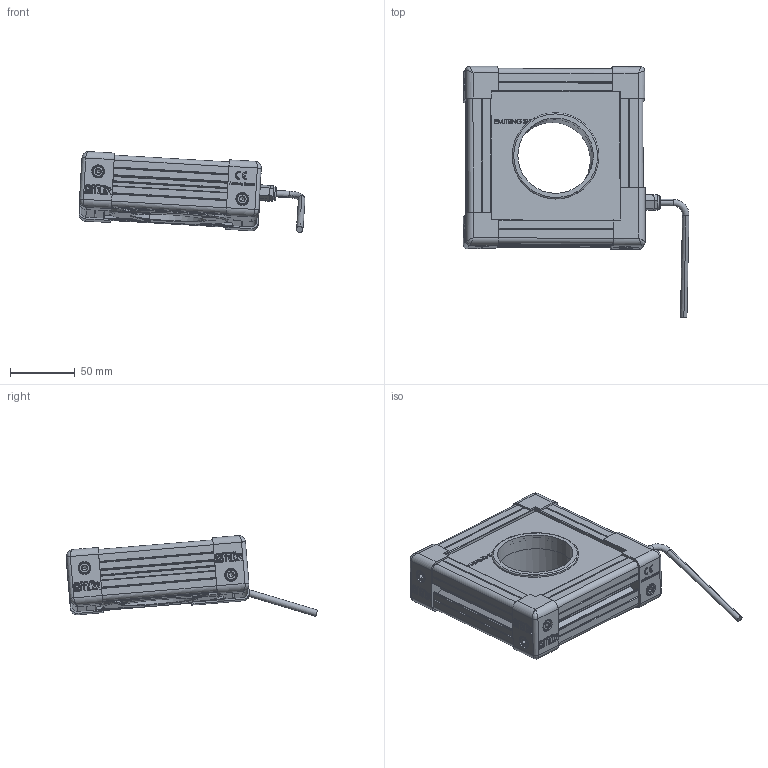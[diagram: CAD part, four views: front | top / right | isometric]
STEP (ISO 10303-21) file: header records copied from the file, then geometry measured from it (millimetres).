
FILE_DESCRIPTION (( 'STEP AP214' ), '1' );
FILE_NAME ('EFFI-BL-100-100-ZZZ-1M12.STEP', '2021-06-18T14:09:20', ( '' ), ( '' ), 'SwSTEP 2.0', 'SolidWorks 2021', '' );
FILE_SCHEMA (( 'AUTOMOTIVE_DESIGN' ));
Length unit declared in the file: millimetre
Products named in the file (13): Assemblage Ø58.5; 000629; grande joue; profile Y_PERCE; petite joue + vis; Pièce13^EFFI-BL-XXX-YYY-ZZZ (1connecteur) Ø58.5; 000590; EFFI-BL-100-100-ZZZ-1M12; 001038; petite joue; cordon_Avec cable; profile X_PERCE; 001037
Assembly tree (21 placements, depth 3):
  EFFI-BL-100-100-ZZZ-1M12
    profile X_PERCE  x2
    profile Y_PERCE  x2
    Pièce13^EFFI-BL-XXX-YYY-ZZZ (1connecteur) Ø58.5
    petite joue + vis  x3
      petite joue
      000629
    000629  x2
    grande joue
    Assemblage Ø58.5
      001037
      001038
      000590  x3
    cordon_Avec cable
Bounding box: 174.85 x 194.37 x 62.46 mm (x, y, z)
Volume: 597228.1 mm3; surface area: 167118 mm2
Topology: 22 solids, 28 shells, 3804 faces, 10119 edges, 6640 vertices
Faces by surface type: plane 2344, cylinder 724, bspline 543, cone 150, torus 35, sphere 8
Entity records: 71293 total; most frequent: CARTESIAN_POINT 27647, ORIENTED_EDGE 9128, DIRECTION 7633, EDGE_CURVE 4568, VECTOR 3405, LINE 3405, VERTEX_POINT 3011, AXIS2_PLACEMENT_3D 2114
